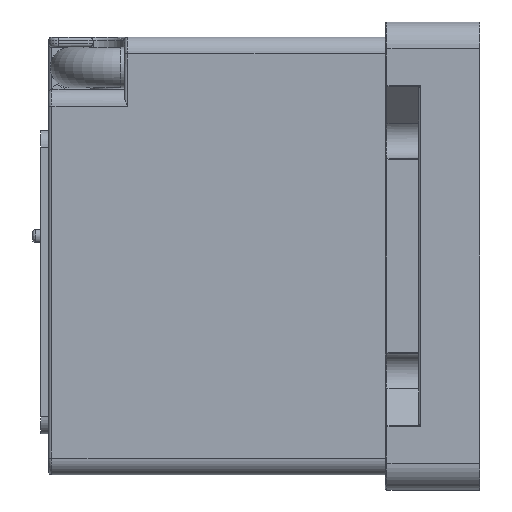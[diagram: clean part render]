
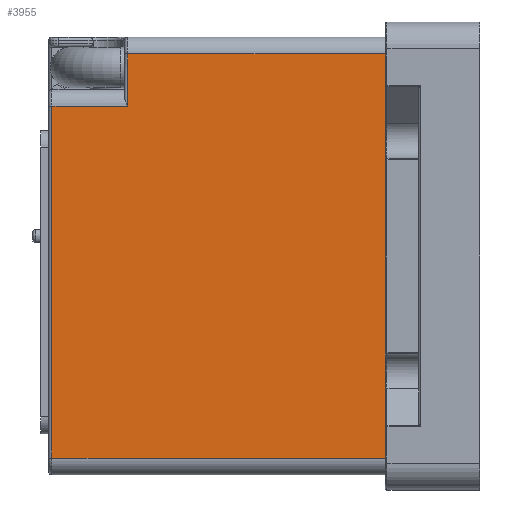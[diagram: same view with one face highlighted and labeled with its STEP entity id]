
A CAD part, left-side view. The second image highlights one B-rep face of the part: STEP entity #3955.
In plain terms, the highlighted planar face has unit normal (-1, 0, 0) as drawn and (0, 1, 0) by its records, which use the part's own axes.
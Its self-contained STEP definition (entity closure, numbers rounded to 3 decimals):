
#3955=ADVANCED_FACE('',(#7318),#5542,.F.);
#5542=PLANE('',#40895);
#7318=FACE_OUTER_BOUND('',#9456,.T.);
#9456=EDGE_LOOP('',(#19128,#19129,#19130,#19131,#19132,#19133));
#19128=ORIENTED_EDGE('',*,*,#29305,.T.);
#19129=ORIENTED_EDGE('',*,*,#29306,.T.);
#19130=ORIENTED_EDGE('',*,*,#29307,.T.);
#19131=ORIENTED_EDGE('',*,*,#29308,.T.);
#19132=ORIENTED_EDGE('',*,*,#29309,.T.);
#19133=ORIENTED_EDGE('',*,*,#29310,.T.);
#24344=VERTEX_POINT('',#67504);
#24345=VERTEX_POINT('',#67505);
#24346=VERTEX_POINT('',#67507);
#24347=VERTEX_POINT('',#67509);
#24348=VERTEX_POINT('',#67511);
#24349=VERTEX_POINT('',#67513);
#29305=EDGE_CURVE('',#24344,#24345,#33779,.T.);
#29306=EDGE_CURVE('',#24345,#24346,#33780,.T.);
#29307=EDGE_CURVE('',#24346,#24347,#33781,.T.);
#29308=EDGE_CURVE('',#24347,#24348,#33782,.T.);
#29309=EDGE_CURVE('',#24348,#24349,#33783,.T.);
#29310=EDGE_CURVE('',#24349,#24344,#33784,.T.);
#33779=LINE('',#67503,#38230);
#33780=LINE('',#67506,#38231);
#33781=LINE('',#67508,#38232);
#33782=LINE('',#67510,#38233);
#33783=LINE('',#67512,#38234);
#33784=LINE('',#67514,#38235);
#38230=VECTOR('',#49178,1.);
#38231=VECTOR('',#49179,1.);
#38232=VECTOR('',#49180,1.);
#38233=VECTOR('',#49181,1.);
#38234=VECTOR('',#49182,1.);
#38235=VECTOR('',#49183,1.);
#40895=AXIS2_PLACEMENT_3D('',#67515,#49184,#49185);
#49178=DIRECTION('',(0.,0.,1.));
#49179=DIRECTION('',(1.,0.,0.));
#49180=DIRECTION('',(0.,0.,-1.));
#49181=DIRECTION('',(-1.,0.,0.));
#49182=DIRECTION('',(0.,0.,1.));
#49183=DIRECTION('',(1.,0.,0.));
#49184=DIRECTION('',(0.,-1.,0.));
#49185=DIRECTION('',(0.,0.,-1.));
#67503=CARTESIAN_POINT('',(-44.5,75.,70.429));
#67504=CARTESIAN_POINT('',(-44.5,75.,76.5));
#67505=CARTESIAN_POINT('',(-44.5,75.,99.));
#67506=CARTESIAN_POINT('',(60.,75.,99.));
#67507=CARTESIAN_POINT('',(60.,75.,99.));
#67508=CARTESIAN_POINT('',(60.,75.,100.));
#67509=CARTESIAN_POINT('',(60.,75.,0.));
#67510=CARTESIAN_POINT('',(-65.,75.,0.));
#67511=CARTESIAN_POINT('',(-60.,75.,0.));
#67512=CARTESIAN_POINT('',(-60.,75.,100.));
#67513=CARTESIAN_POINT('',(-60.,75.,76.5));
#67514=CARTESIAN_POINT('',(-44.5,75.,76.5));
#67515=CARTESIAN_POINT('',(-65.,75.,100.));
